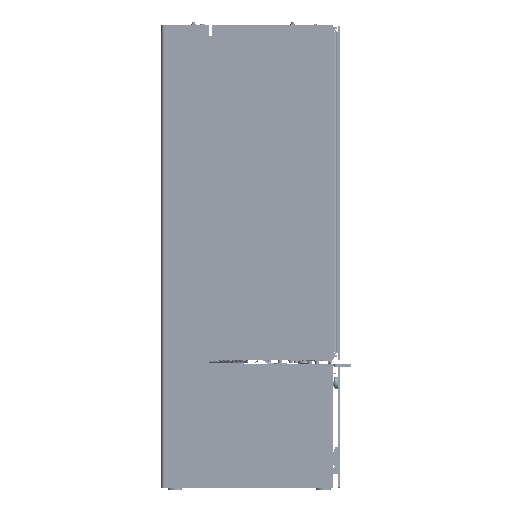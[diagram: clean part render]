
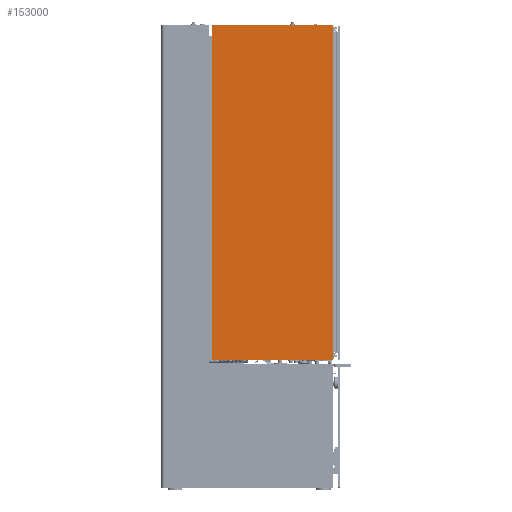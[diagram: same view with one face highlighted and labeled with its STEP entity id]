
A CAD part, left-side view. The second image highlights one B-rep face of the part: STEP entity #153000.
In plain terms, the highlighted planar face has unit normal (-1, 0, 0) as drawn and (0, 0, 1) by its records, which use the part's own axes.
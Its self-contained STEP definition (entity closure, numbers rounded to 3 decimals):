
#10968=PLANE('',#171023);
#18885=FACE_OUTER_BOUND('',#29181,.T.);
#29181=EDGE_LOOP('',(#136566,#136567,#136568,#136569,#136570,#136571,#136572,
#136573));
#42643=LINE('',#291775,#56555);
#42649=LINE('',#291795,#56561);
#42652=LINE('',#291803,#56564);
#42654=LINE('',#291809,#56566);
#56555=VECTOR('',#211013,10.);
#56561=VECTOR('',#211033,10.);
#56564=VECTOR('',#211042,10.);
#56566=VECTOR('',#211050,10.);
#63706=CIRCLE('',#171007,1.5);
#63711=CIRCLE('',#171015,1.5);
#63712=CIRCLE('',#171018,1.5);
#63713=CIRCLE('',#171021,1.5);
#76616=VERTEX_POINT('',#291762);
#76617=VERTEX_POINT('',#291763);
#76621=VERTEX_POINT('',#291773);
#76627=VERTEX_POINT('',#291789);
#76628=VERTEX_POINT('',#291793);
#76629=VERTEX_POINT('',#291797);
#76630=VERTEX_POINT('',#291801);
#76631=VERTEX_POINT('',#291805);
#96874=EDGE_CURVE('',#76616,#76617,#63706,.T.);
#96880=EDGE_CURVE('',#76621,#76616,#42643,.T.);
#96887=EDGE_CURVE('',#76627,#76621,#63711,.T.);
#96890=EDGE_CURVE('',#76628,#76627,#42649,.T.);
#96891=EDGE_CURVE('',#76629,#76628,#63712,.T.);
#96894=EDGE_CURVE('',#76630,#76629,#42652,.T.);
#96895=EDGE_CURVE('',#76631,#76630,#63713,.T.);
#96897=EDGE_CURVE('',#76617,#76631,#42654,.T.);
#136566=ORIENTED_EDGE('',*,*,#96874,.F.);
#136567=ORIENTED_EDGE('',*,*,#96880,.F.);
#136568=ORIENTED_EDGE('',*,*,#96887,.F.);
#136569=ORIENTED_EDGE('',*,*,#96890,.F.);
#136570=ORIENTED_EDGE('',*,*,#96891,.F.);
#136571=ORIENTED_EDGE('',*,*,#96894,.F.);
#136572=ORIENTED_EDGE('',*,*,#96895,.F.);
#136573=ORIENTED_EDGE('',*,*,#96897,.F.);
#153000=ADVANCED_FACE('',(#18885),#10968,.T.);
#171007=AXIS2_PLACEMENT_3D('',#291764,#211003,#211004);
#171015=AXIS2_PLACEMENT_3D('',#291790,#211027,#211028);
#171018=AXIS2_PLACEMENT_3D('',#291798,#211036,#211037);
#171021=AXIS2_PLACEMENT_3D('',#291806,#211045,#211046);
#171023=AXIS2_PLACEMENT_3D('',#291810,#211051,#211052);
#211003=DIRECTION('center_axis',(0.,0.,-1.));
#211004=DIRECTION('ref_axis',(-0.707,-0.707,0.));
#211013=DIRECTION('',(-1.,0.,0.));
#211027=DIRECTION('center_axis',(0.,0.,-1.));
#211028=DIRECTION('ref_axis',(0.707,-0.707,0.));
#211033=DIRECTION('',(0.,-1.,0.));
#211036=DIRECTION('center_axis',(0.,0.,-1.));
#211037=DIRECTION('ref_axis',(0.707,0.707,0.));
#211042=DIRECTION('',(1.,0.,0.));
#211045=DIRECTION('center_axis',(0.,0.,-1.));
#211046=DIRECTION('ref_axis',(-0.707,0.707,0.));
#211050=DIRECTION('',(0.,1.,0.));
#211051=DIRECTION('center_axis',(0.,0.,1.));
#211052=DIRECTION('ref_axis',(1.,0.,0.));
#291762=CARTESIAN_POINT('',(-130.5,-366.5,5.));
#291763=CARTESIAN_POINT('',(-132.,-365.,5.));
#291764=CARTESIAN_POINT('Origin',(-130.5,-365.,5.));
#291773=CARTESIAN_POINT('',(130.5,-366.5,5.));
#291775=CARTESIAN_POINT('',(-132.,-366.5,5.));
#291789=CARTESIAN_POINT('',(132.,-365.,5.));
#291790=CARTESIAN_POINT('Origin',(130.5,-365.,5.));
#291793=CARTESIAN_POINT('',(132.,365.,5.));
#291795=CARTESIAN_POINT('',(132.,-366.5,5.));
#291797=CARTESIAN_POINT('',(130.5,366.5,5.));
#291798=CARTESIAN_POINT('Origin',(130.5,365.,5.));
#291801=CARTESIAN_POINT('',(-130.5,366.5,5.));
#291803=CARTESIAN_POINT('',(132.,366.5,5.));
#291805=CARTESIAN_POINT('',(-132.,365.,5.));
#291806=CARTESIAN_POINT('Origin',(-130.5,365.,5.));
#291809=CARTESIAN_POINT('',(-132.,366.5,5.));
#291810=CARTESIAN_POINT('Origin',(0.,0.,
5.));
